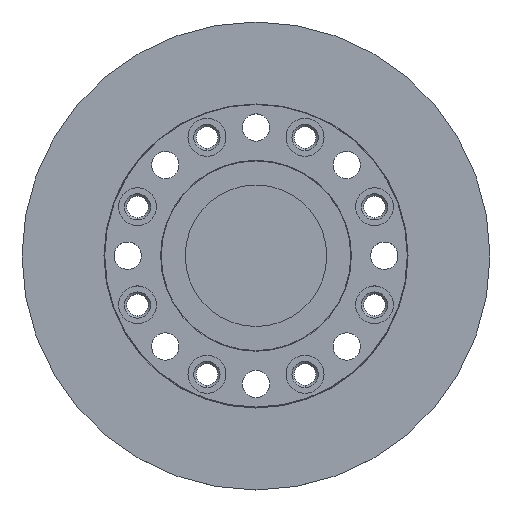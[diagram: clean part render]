
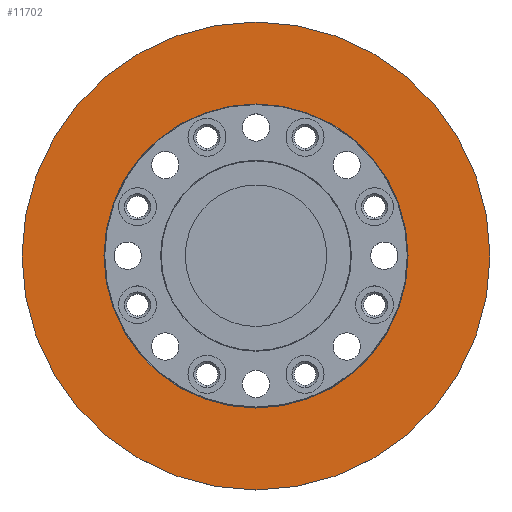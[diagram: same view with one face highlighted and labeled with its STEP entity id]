
A CAD part, top view. The second image highlights one B-rep face of the part: STEP entity #11702.
In plain terms, the highlighted planar face has unit normal (0, 0, 1).
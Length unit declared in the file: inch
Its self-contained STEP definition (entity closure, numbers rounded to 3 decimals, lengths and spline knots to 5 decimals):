
#176 = PLANE ( 'NONE',  #13654 ) ;
#890 = VERTEX_POINT ( 'NONE', #15082 ) ;
#925 = AXIS2_PLACEMENT_3D ( 'NONE', #25888, #11625, #28290 ) ;
#2465 = VERTEX_POINT ( 'NONE', #12135 ) ;
#4030 = EDGE_CURVE ( 'NONE', #24342, #890, #8386, .T. ) ;
#4449 = FACE_BOUND ( 'NONE', #10683, .T. ) ;
#4813 = EDGE_LOOP ( 'NONE', ( #25868, #27492 ) ) ;
#5470 = CIRCLE ( 'NONE', #925, 2.368 ) ;
#6139 = DIRECTION ( 'NONE',  ( 0., 0., 1. ) ) ;
#6426 = AXIS2_PLACEMENT_3D ( 'NONE', #20414, #6139, #22811 ) ;
#7342 = CARTESIAN_POINT ( 'NONE',  ( 0., 0., -0.9575 ) ) ;
#7499 = DIRECTION ( 'NONE',  ( 0., 0., 1. ) ) ;
#8386 = CIRCLE ( 'NONE', #27447, 2.368 ) ;
#9502 = CARTESIAN_POINT ( 'NONE',  ( 0., 0., -0.9575 ) ) ;
#10683 = EDGE_LOOP ( 'NONE', ( #15914, #14962 ) ) ;
#11525 = CARTESIAN_POINT ( 'NONE',  ( 3.645, 0., -0.9575 ) ) ;
#11625 = DIRECTION ( 'NONE',  ( 0., 0., 1. ) ) ;
#11702 = ADVANCED_FACE ( 'NONE', ( #15661, #4449 ), #176, .T. ) ;
#11895 = DIRECTION ( 'NONE',  ( 1., 0., 0. ) ) ;
#12135 = CARTESIAN_POINT ( 'NONE',  ( -3.645, 0., -0.9575 ) ) ;
#12158 = DIRECTION ( 'NONE',  ( 1., 0., 0. ) ) ;
#13654 = AXIS2_PLACEMENT_3D ( 'NONE', #7342, #26411, #12158 ) ;
#14962 = ORIENTED_EDGE ( 'NONE', *, *, #4030, .F. ) ;
#15082 = CARTESIAN_POINT ( 'NONE',  ( -2.368, 0., -0.9575 ) ) ;
#15661 = FACE_OUTER_BOUND ( 'NONE', #4813, .T. ) ;
#15914 = ORIENTED_EDGE ( 'NONE', *, *, #16416, .F. ) ;
#16416 = EDGE_CURVE ( 'NONE', #890, #24342, #5470, .T. ) ;
#17454 = VERTEX_POINT ( 'NONE', #11525 ) ;
#18937 = EDGE_CURVE ( 'NONE', #2465, #17454, #21165, .T. ) ;
#20414 = CARTESIAN_POINT ( 'NONE',  ( 0., 0., -0.9575 ) ) ;
#21074 = CIRCLE ( 'NONE', #6426, 3.645 ) ;
#21165 = CIRCLE ( 'NONE', #27143, 3.645 ) ;
#21790 = CARTESIAN_POINT ( 'NONE',  ( 0., 0., -0.9575 ) ) ;
#22811 = DIRECTION ( 'NONE',  ( 1., 0., 0. ) ) ;
#23300 = EDGE_CURVE ( 'NONE', #17454, #2465, #21074, .T. ) ;
#24177 = DIRECTION ( 'NONE',  ( 1., 0., 0. ) ) ;
#24342 = VERTEX_POINT ( 'NONE', #28176 ) ;
#25868 = ORIENTED_EDGE ( 'NONE', *, *, #18937, .T. ) ;
#25888 = CARTESIAN_POINT ( 'NONE',  ( 0., 0., -0.9575 ) ) ;
#26158 = DIRECTION ( 'NONE',  ( 0., 0., 1. ) ) ;
#26411 = DIRECTION ( 'NONE',  ( 0., 0., 1. ) ) ;
#27143 = AXIS2_PLACEMENT_3D ( 'NONE', #21790, #7499, #24177 ) ;
#27447 = AXIS2_PLACEMENT_3D ( 'NONE', #9502, #26158, #11895 ) ;
#27492 = ORIENTED_EDGE ( 'NONE', *, *, #23300, .T. ) ;
#28176 = CARTESIAN_POINT ( 'NONE',  ( 2.368, 0., -0.9575 ) ) ;
#28290 = DIRECTION ( 'NONE',  ( 1., 0., 0. ) ) ;
